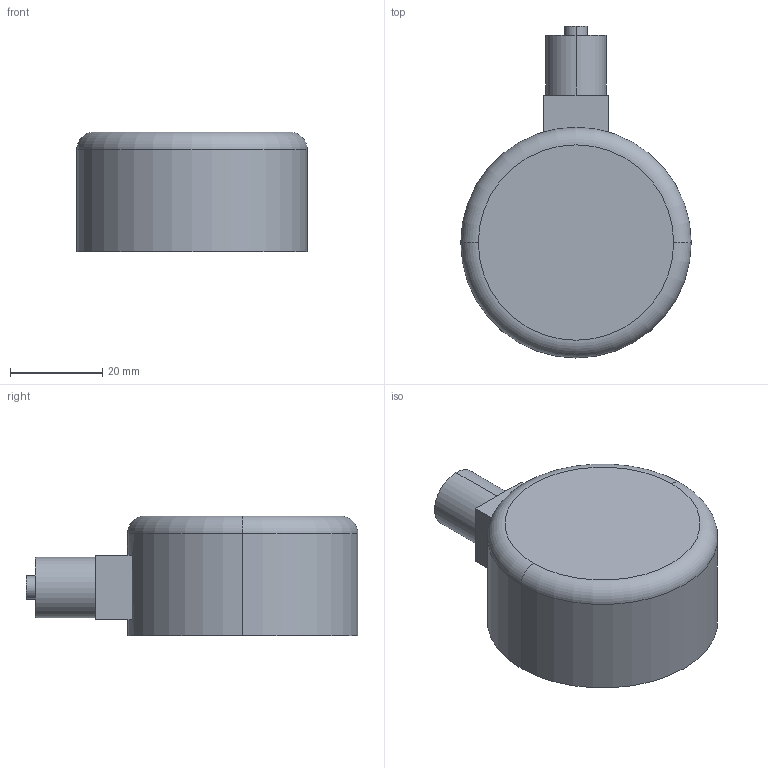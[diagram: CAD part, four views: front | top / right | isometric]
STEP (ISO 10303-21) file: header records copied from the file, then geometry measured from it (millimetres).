
FILE_DESCRIPTION (( 'STEP AP214' ), '1' );
FILE_NAME ('85051201.STEP', '2022-12-01T14:18:19', ( '' ), ( '' ), 'SwSTEP 2.0', 'SolidWorks 2022', '' );
FILE_SCHEMA (( 'AUTOMOTIVE_DESIGN' ));
Length unit declared in the file: millimetre
Products named in the file (1): 85051201
Bounding box: 50 x 72 x 26 mm (x, y, z)
Volume: 53808.9 mm3; surface area: 8741.5 mm2
Topology: 1 solids, 1 shells, 17 faces, 34 edges, 22 vertices
Faces by surface type: plane 9, cylinder 6, torus 2
Entity records: 484 total; most frequent: DIRECTION 88, CARTESIAN_POINT 74, ORIENTED_EDGE 68, AXIS2_PLACEMENT_3D 36, EDGE_CURVE 34, VERTEX_POINT 22, EDGE_LOOP 20, CIRCLE 18
